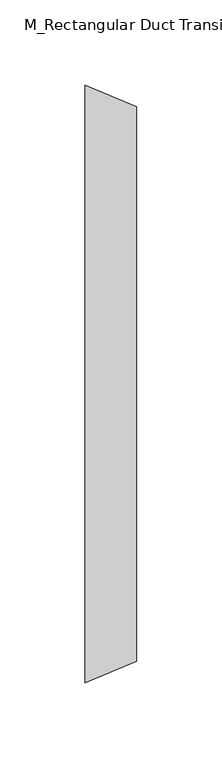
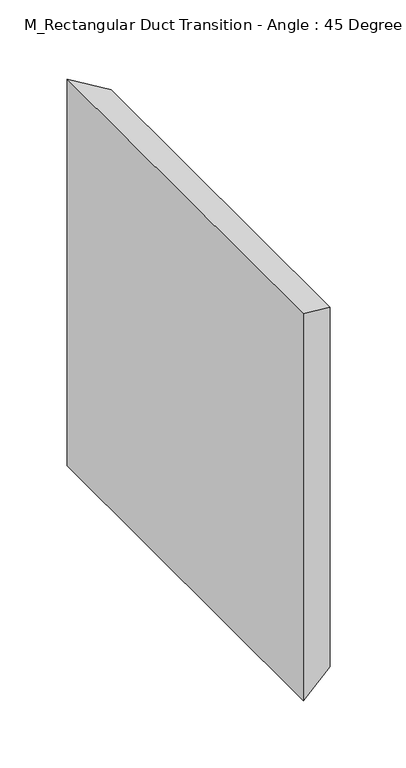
"""IFC4 building model written with IfcOpenShell, lengths in millimetres: duct fitting geometry, M_Rectangular Duct Transition - Angle : 45 Degree."""

from ifc_helpers import new_model, si_unit, origin, place, context, project, spatial, faceted_brep, source, transform, mapped, element, save


def m_rectangular_duct_transition_angle_45_degree_0ac15c82(model_context):
    return source(origin(), model_context, "Body", "Brep", [
        faceted_brep([(30.1776695, -162.5, 162.5), (30.1776695, -162.5, -162.5), (30.1776695, 162.5, -162.5), (30.1776695, 162.5, 162.5), (0.0, -175.0, 175.0), (0.0, 175.0, 175.0), (0.0, 175.0, -175.0), (0.0, -175.0, -175.0)], [[[0, 1, 2, 3]], [[4, 5, 6, 7]], [[4, 7, 1, 0]], [[7, 6, 2, 1]], [[6, 5, 3, 2]], [[5, 4, 0, 3]]]),
        faceted_brep([(30.1776695, -162.5, 162.5), (30.1776695, -162.5, -162.5), (30.1776695, 162.5, -162.5), (30.1776695, 162.5, 162.5), (0.0, -175.0, 175.0), (0.0, 175.0, 175.0), (0.0, 175.0, -175.0), (0.0, -175.0, -175.0)], [[[0, 1, 2, 3]], [[4, 5, 6, 7]], [[4, 7, 1, 0]], [[7, 6, 2, 1]], [[6, 5, 3, 2]], [[5, 4, 0, 3]]]),
        faceted_brep([(30.1776695, -162.5, 162.5), (30.1776695, -162.5, -162.5), (30.1776695, 162.5, -162.5), (30.1776695, 162.5, 162.5), (0.0, -175.0, 175.0), (0.0, 175.0, 175.0), (0.0, 175.0, -175.0), (0.0, -175.0, -175.0)], [[[0, 1, 2, 3]], [[4, 5, 6, 7]], [[4, 7, 1, 0]], [[7, 6, 2, 1]], [[6, 5, 3, 2]], [[5, 4, 0, 3]]]),
    ])


if __name__ == "__main__":
    model = new_model("IFC4")
    model_context = context("Model", 3, world=origin())
    ifc_project = project(units=[si_unit("LENGTHUNIT", "METRE", prefix="MILLI")], contexts=[model_context])
    site = spatial("IfcSite", under=ifc_project)
    building = spatial("IfcBuilding", under=site)
    placement = place(None, origin())
    m_rectangular_duct_transition_angle_45_degree_shape = m_rectangular_duct_transition_angle_45_degree_0ac15c82(model_context)
    element("IfcDuctFitting", 1, ObjectType="M_Rectangular Duct Transition - Angle : 45 Degree", at=placement, inside=building, context=model_context, shape_type="MappedRepresentation", body=[
        mapped(m_rectangular_duct_transition_angle_45_degree_shape, transform((0.0, 0.0, 0.0), x_axis=(1.0, 0.0, 0.0), y_axis=(0.0, 1.0, 0.0), z_axis=(0.0, 0.0, 1.0))),
    ])
    save(model, "model.ifc")
